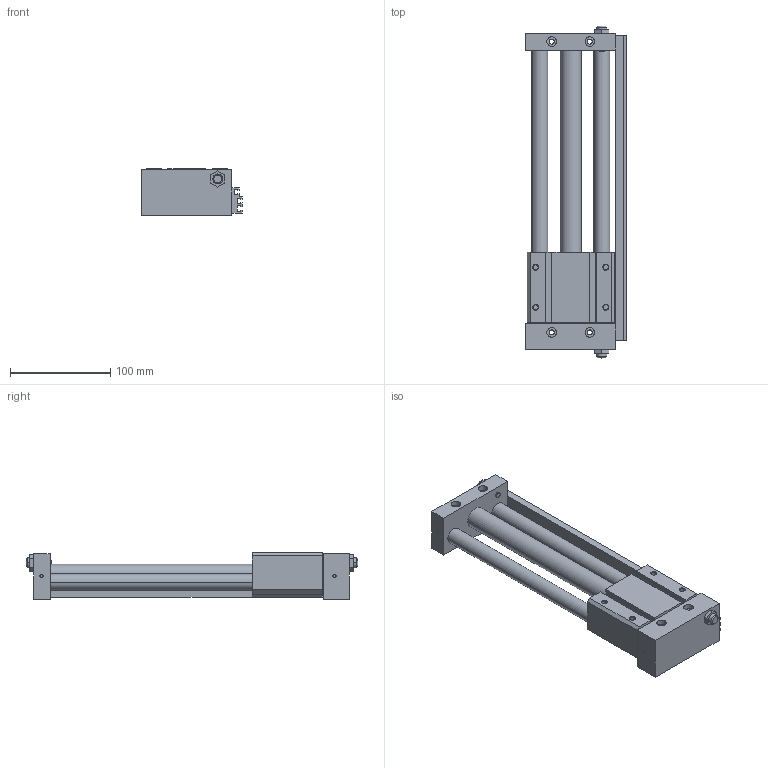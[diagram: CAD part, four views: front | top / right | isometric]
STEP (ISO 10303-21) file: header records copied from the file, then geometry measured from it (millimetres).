
FILE_DESCRIPTION((''),'2;1');
FILE_NAME('C:\Documents and Settings\Administrator\桌面\GYS\GYS20\GYSR20X200.stp','2012-03-06T20:22:19',('Administrator'),(''),'Autodesk Inventor 8','Autodesk Inventor 8','');
FILE_SCHEMA(('AUTOMOTIVE_DESIGN { 1 0 10303 214 1 1 1 1 }'));
Length unit declared in the file: millimetre
Products named in the file (3): GYSR20X200; GYS20X200; GYS20160X200
Assembly tree (2 placements, depth 2):
  GYSR20X200
    GYS20X200
    GYS20160X200
Bounding box: 100.5 x 331 x 46 mm (x, y, z)
Volume: 618930.3 mm3; surface area: 126511.2 mm2
Topology: 2 solids, 2 shells, 243 faces, 626 edges, 408 vertices
Faces by surface type: plane 133, cylinder 76, cone 28, bspline 6
Entity records: 7564 total; most frequent: CARTESIAN_POINT 1356, DIRECTION 1306, ORIENTED_EDGE 1252, EDGE_CURVE 626, AXIS2_PLACEMENT_3D 438, VECTOR 430, LINE 430, VERTEX_POINT 408
